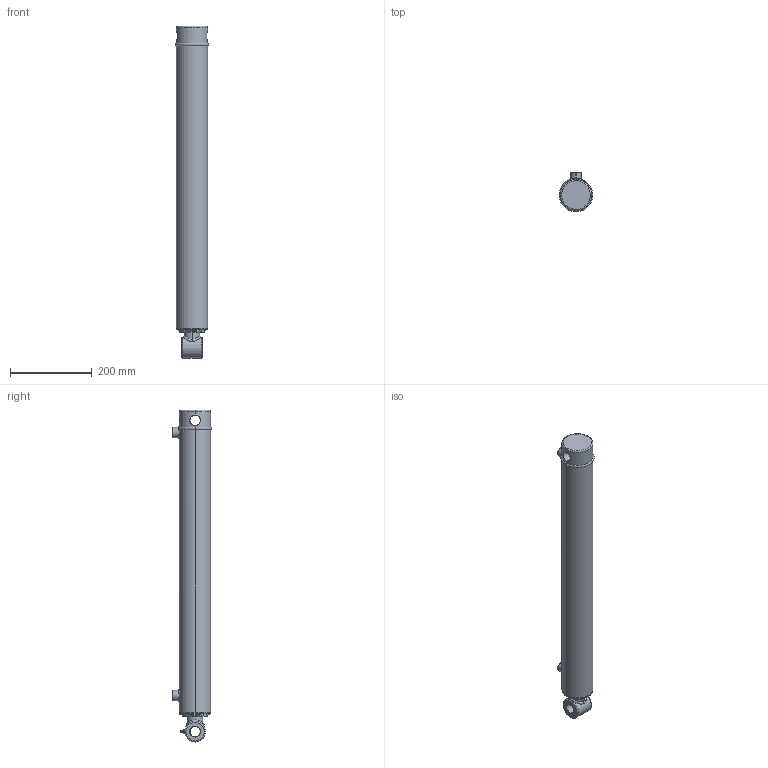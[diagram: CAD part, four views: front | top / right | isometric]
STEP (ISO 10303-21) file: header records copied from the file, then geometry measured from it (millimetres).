
FILE_DESCRIPTION (( 'STEP AP203' ), '1' );
FILE_NAME ('SB-C250150x610 (24).STEP', '2014-11-19T01:55:44', ( '' ), ( '' ), 'SwSTEP 2.0', 'SolidWorks 2014', '' );
FILE_SCHEMA (( 'CONFIG_CONTROL_DESIGN' ));
Length unit declared in the file: millimetre
Products named in the file (7): SB-C250150x610 (24); SB-C250250X610 (24) BODY; 2.5 INCH CIRCLIP; SB-C250150x610 (24) BODY; 24 SPARE; 18 NPT GREASE NIPPLE; SPARE 24
Assembly tree (6 placements, depth 3):
  SB-C250150x610 (24)
    SB-C250150x610 (24) BODY
      SB-C250250X610 (24) BODY
      2.5 INCH CIRCLIP
    SPARE 24
      24 SPARE
      18 NPT GREASE NIPPLE
Bounding box: 82.2 x 97.2 x 811.4 mm (x, y, z)
Volume: 3956926.6 mm3; surface area: 330548.8 mm2
Topology: 4 solids, 4 shells, 135 faces, 315 edges, 197 vertices
Faces by surface type: cylinder 51, plane 29, cone 22, bspline 19, torus 12, sphere 2
Entity records: 10875 total; most frequent: CARTESIAN_POINT 7141, DIRECTION 640, ORIENTED_EDGE 622, EDGE_CURVE 311, AXIS2_PLACEMENT_3D 271, VERTEX_POINT 197, EDGE_LOOP 160, CIRCLE 144
